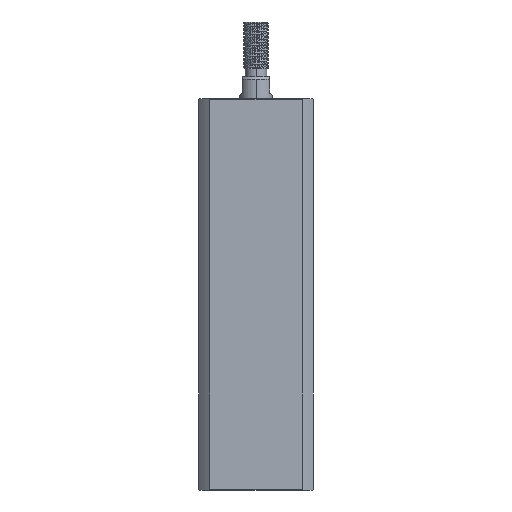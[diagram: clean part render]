
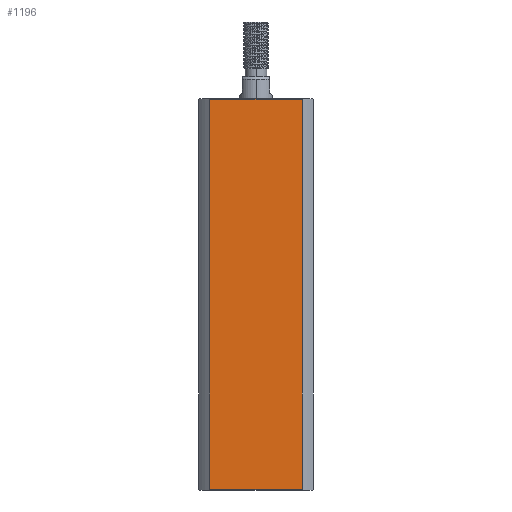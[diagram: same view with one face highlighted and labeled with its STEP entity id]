
A CAD part, left-side view. The second image highlights one B-rep face of the part: STEP entity #1196.
In plain terms, the highlighted planar face has unit normal (-1, 0, 0).
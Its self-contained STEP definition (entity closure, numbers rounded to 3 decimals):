
#357 = PLANE ( 'NONE',  #7313 ) ;
#712 = EDGE_LOOP ( 'NONE', ( #9462, #7183, #4523, #5500 ) ) ;
#1196 = ADVANCED_FACE ( 'NONE', ( #12615 ), #357, .F. ) ;
#1293 = DIRECTION ( 'NONE',  ( 0., 1., 0. ) ) ;
#1333 = VECTOR ( 'NONE', #2004, 1000. ) ;
#1545 = EDGE_CURVE ( 'NONE', #12683, #7053, #7439, .T. ) ;
#2004 = DIRECTION ( 'NONE',  ( 0., 1., 0. ) ) ;
#3112 = DIRECTION ( 'NONE',  ( 0., -1., 0. ) ) ;
#3126 = CARTESIAN_POINT ( 'NONE',  ( -21., 16.971, -457. ) ) ;
#3732 = CARTESIAN_POINT ( 'NONE',  ( -21., 16.971, 0.3 ) ) ;
#4523 = ORIENTED_EDGE ( 'NONE', *, *, #1545, .F. ) ;
#5500 = ORIENTED_EDGE ( 'NONE', *, *, #12062, .T. ) ;
#6057 = DIRECTION ( 'NONE',  ( 0., 0., -1. ) ) ;
#6846 = LINE ( 'NONE', #3126, #12915 ) ;
#7053 = VERTEX_POINT ( 'NONE', #9281 ) ;
#7078 = CARTESIAN_POINT ( 'NONE',  ( -21., -16.971, 142.7 ) ) ;
#7183 = ORIENTED_EDGE ( 'NONE', *, *, #13665, .T. ) ;
#7313 = AXIS2_PLACEMENT_3D ( 'NONE', #13968, #12902, #1293 ) ;
#7388 = LINE ( 'NONE', #10014, #13478 ) ;
#7439 = LINE ( 'NONE', #8500, #13523 ) ;
#7643 = VERTEX_POINT ( 'NONE', #12507 ) ;
#8500 = CARTESIAN_POINT ( 'NONE',  ( -21., -16.971, -457. ) ) ;
#9245 = VERTEX_POINT ( 'NONE', #3732 ) ;
#9281 = CARTESIAN_POINT ( 'NONE',  ( -21., -16.971, 0.3 ) ) ;
#9462 = ORIENTED_EDGE ( 'NONE', *, *, #14236, .F. ) ;
#10014 = CARTESIAN_POINT ( 'NONE',  ( -21., 21., 0.3 ) ) ;
#10079 = CARTESIAN_POINT ( 'NONE',  ( -21., 21., 142.7 ) ) ;
#10177 = LINE ( 'NONE', #10079, #1333 ) ;
#11161 = DIRECTION ( 'NONE',  ( 0., 0., 1. ) ) ;
#12062 = EDGE_CURVE ( 'NONE', #12683, #7643, #10177, .T. ) ;
#12507 = CARTESIAN_POINT ( 'NONE',  ( -21., 16.971, 142.7 ) ) ;
#12615 = FACE_OUTER_BOUND ( 'NONE', #712, .T. ) ;
#12683 = VERTEX_POINT ( 'NONE', #7078 ) ;
#12902 = DIRECTION ( 'NONE',  ( 1., 0., 0. ) ) ;
#12915 = VECTOR ( 'NONE', #11161, 1000. ) ;
#13478 = VECTOR ( 'NONE', #3112, 1000. ) ;
#13523 = VECTOR ( 'NONE', #6057, 1000. ) ;
#13665 = EDGE_CURVE ( 'NONE', #9245, #7053, #7388, .T. ) ;
#13968 = CARTESIAN_POINT ( 'NONE',  ( -21., 21., 143. ) ) ;
#14236 = EDGE_CURVE ( 'NONE', #9245, #7643, #6846, .T. ) ;
